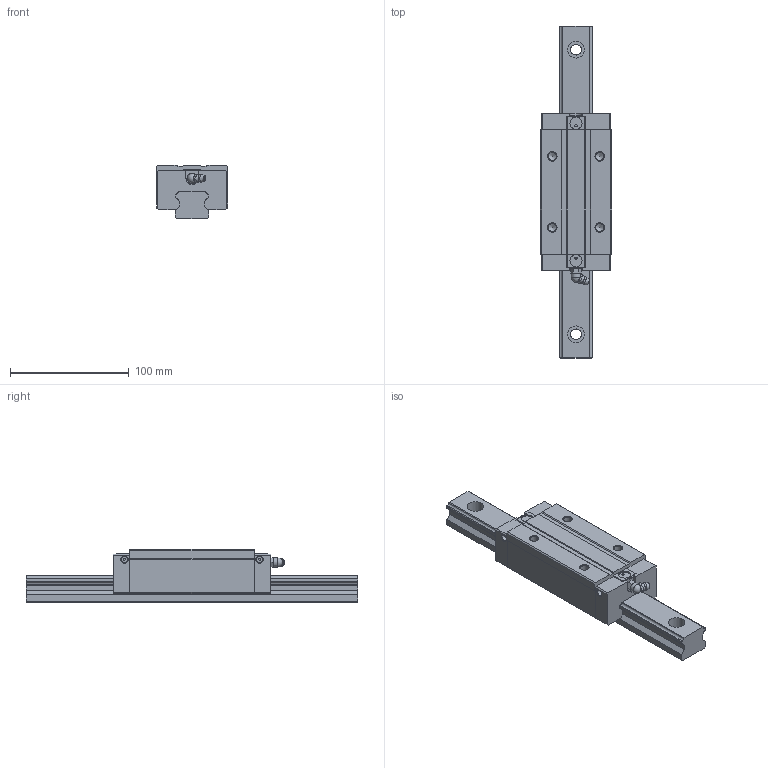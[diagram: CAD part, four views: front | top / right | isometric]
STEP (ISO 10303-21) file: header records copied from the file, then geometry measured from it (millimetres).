
FILE_DESCRIPTION(/* description */ (''),/* implementation_level */ '2;1');
FILE_NAME(/* name */ 'SME30-LSA',/* time_stamp */ '2008-10-06T10:24:59+08:00',/* author */ (''),/* organization */ (''),/* preprocessor_version */ 'ST-DEVELOPER v11',/* originating_system */ 'UGS - NX 5.0',/* authorisation */ '');
FILE_SCHEMA (('AUTOMOTIVE_DESIGN { 1 0 10303 214 1 1 1 1 }'));
Length unit declared in the file: millimetre
Products named in the file (1): jillBD1Calkx
Bounding box: 60 x 280 x 45 mm (x, y, z)
Volume: 388740.5 mm3; surface area: 69229.4 mm2
Topology: 3 solids, 3 shells, 187 faces, 499 edges, 334 vertices
Faces by surface type: plane 117, cylinder 47, cone 13, torus 7, sphere 2, bspline 1
Full cylindrical faces by diameter (mm): 1.5 x4, 2 x2, 5.2 x4, 6.8 x4, 8 x1, 9 x4, 10.2 x2, 14 x4
Entity records: 5939 total; most frequent: CARTESIAN_POINT 1204, DIRECTION 890, ORIENTED_EDGE 886, EDGE_CURVE 443, VERTEX_POINT 324, AXIS2_PLACEMENT_3D 306, LINE 278, VECTOR 278
